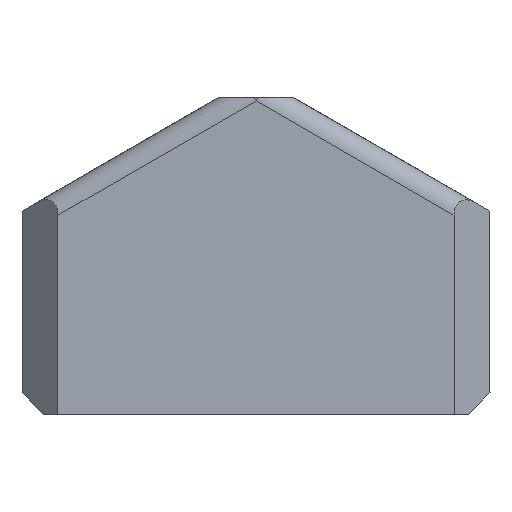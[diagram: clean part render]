
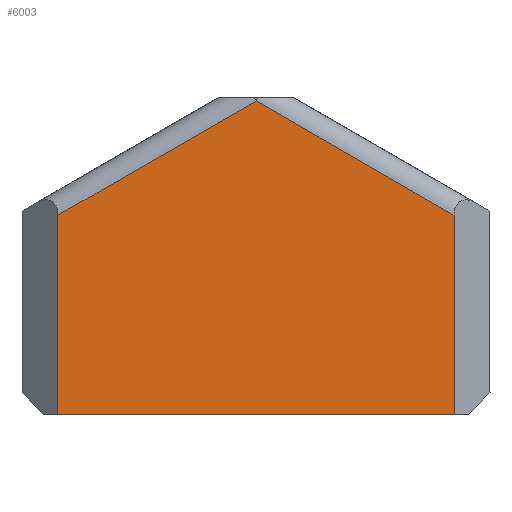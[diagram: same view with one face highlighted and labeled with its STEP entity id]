
A CAD part, front view. The second image highlights one B-rep face of the part: STEP entity #6003.
In plain terms, the highlighted planar face has unit normal (0, -1, 0).
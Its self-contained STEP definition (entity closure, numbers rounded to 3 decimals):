
#79 = EDGE_CURVE ( 'NONE', #4552, #7315, #2491, .T. ) ;
#258 = VECTOR ( 'NONE', #6588, 1000. ) ;
#638 = CARTESIAN_POINT ( 'NONE',  ( -59.541, -239.933, 0. ) ) ;
#737 = DIRECTION ( 'NONE',  ( 0., 1., 0. ) ) ;
#965 = DIRECTION ( 'NONE',  ( 0., 0., 1. ) ) ;
#1020 = VECTOR ( 'NONE', #965, 1000. ) ;
#1069 = EDGE_LOOP ( 'NONE', ( #3124, #6334, #3965, #4900, #4771 ) ) ;
#1457 = LINE ( 'NONE', #3488, #4312 ) ;
#1849 = LINE ( 'NONE', #4226, #258 ) ;
#2141 = CARTESIAN_POINT ( 'NONE',  ( -59.541, -239.933, 13.829 ) ) ;
#2444 = VECTOR ( 'NONE', #3025, 1000. ) ;
#2491 = LINE ( 'NONE', #5610, #3835 ) ;
#2736 = LINE ( 'NONE', #2141, #1020 ) ;
#2738 = CARTESIAN_POINT ( 'NONE',  ( -114.541, -239.933, 27.659 ) ) ;
#2817 = FACE_OUTER_BOUND ( 'NONE', #1069, .T. ) ;
#3025 = DIRECTION ( 'NONE',  ( 0.866, 0., -0.5 ) ) ;
#3124 = ORIENTED_EDGE ( 'NONE', *, *, #6260, .T. ) ;
#3232 = AXIS2_PLACEMENT_3D ( 'NONE', #4198, #737, #4782 ) ;
#3488 = CARTESIAN_POINT ( 'NONE',  ( -98.269, -239.933, 37.054 ) ) ;
#3587 = CARTESIAN_POINT ( 'NONE',  ( -75.814, -239.933, 37.054 ) ) ;
#3635 = EDGE_CURVE ( 'NONE', #7315, #7099, #2736, .T. ) ;
#3676 = EDGE_CURVE ( 'NONE', #6643, #4552, #1849, .T. ) ;
#3835 = VECTOR ( 'NONE', #5554, 1000. ) ;
#3965 = ORIENTED_EDGE ( 'NONE', *, *, #79, .T. ) ;
#4198 = CARTESIAN_POINT ( 'NONE',  ( -119.541, -239.933, 47. ) ) ;
#4226 = CARTESIAN_POINT ( 'NONE',  ( -114.541, -239.933, 13.829 ) ) ;
#4312 = VECTOR ( 'NONE', #6357, 1000. ) ;
#4552 = VERTEX_POINT ( 'NONE', #7522 ) ;
#4771 = ORIENTED_EDGE ( 'NONE', *, *, #6388, .F. ) ;
#4782 = DIRECTION ( 'NONE',  ( 1., 0., 0. ) ) ;
#4900 = ORIENTED_EDGE ( 'NONE', *, *, #3635, .T. ) ;
#4972 = CARTESIAN_POINT ( 'NONE',  ( -87.041, -239.933, 43.536 ) ) ;
#5290 = PLANE ( 'NONE',  #3232 ) ;
#5441 = CARTESIAN_POINT ( 'NONE',  ( -59.541, -239.933, 27.659 ) ) ;
#5554 = DIRECTION ( 'NONE',  ( 1., 0., 0. ) ) ;
#5610 = CARTESIAN_POINT ( 'NONE',  ( -87.041, -239.933, 0. ) ) ;
#5679 = LINE ( 'NONE', #3587, #2444 ) ;
#6003 = ADVANCED_FACE ( 'NONE', ( #2817 ), #5290, .F. ) ;
#6260 = EDGE_CURVE ( 'NONE', #7554, #6643, #1457, .T. ) ;
#6334 = ORIENTED_EDGE ( 'NONE', *, *, #3676, .T. ) ;
#6357 = DIRECTION ( 'NONE',  ( -0.866, 0., -0.5 ) ) ;
#6388 = EDGE_CURVE ( 'NONE', #7554, #7099, #5679, .T. ) ;
#6588 = DIRECTION ( 'NONE',  ( 0., 0., -1. ) ) ;
#6643 = VERTEX_POINT ( 'NONE', #2738 ) ;
#7099 = VERTEX_POINT ( 'NONE', #5441 ) ;
#7315 = VERTEX_POINT ( 'NONE', #638 ) ;
#7522 = CARTESIAN_POINT ( 'NONE',  ( -114.541, -239.933, 0. ) ) ;
#7554 = VERTEX_POINT ( 'NONE', #4972 ) ;
